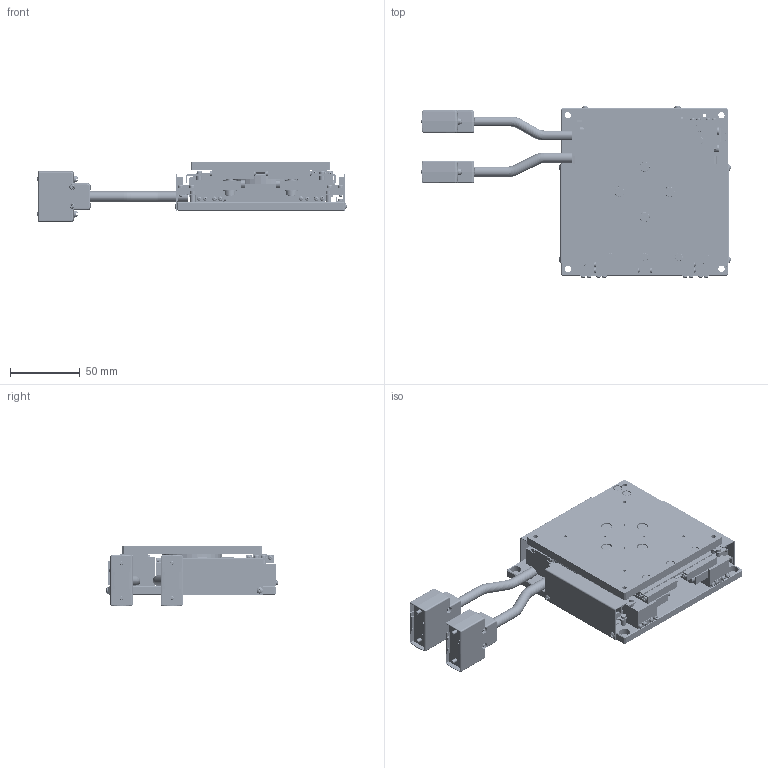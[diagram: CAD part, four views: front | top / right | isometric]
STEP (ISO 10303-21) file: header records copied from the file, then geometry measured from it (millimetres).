
FILE_DESCRIPTION (( 'STEP AP214' ), '1' );
FILE_NAME ('NAF3C-10-01P_3D図.STEP', '2021-07-28T06:30:46', ( 'hst163l' ), ( 'Microsoft' ), 'SwSTEP 2.0', 'SolidWorks 2016', '' );
FILE_SCHEMA (( 'AUTOMOTIVE_DESIGN' ));
Length unit declared in the file: millimetre
Products named in the file (3): K3D-DE-C8-J9-F1-1R-V1_JAE Proprietary; ボディ; NAF3C-10-01P_3D図
Assembly tree (3 placements, depth 2):
  NAF3C-10-01P_3D図
    ボディ
    K3D-DE-C8-J9-F1-1R-V1_JAE Proprietary  x2
Bounding box: 221.63 x 123.2 x 43.4 mm (x, y, z)
Volume: 342393 mm3; surface area: 161019.1 mm2
Topology: 32 solids, 34 shells, 5680 faces, 14065 edges, 8688 vertices
Faces by surface type: plane 3047, cylinder 1279, cone 756, torus 288, bspline 210, sphere 100
Entity records: 161880 total; most frequent: CARTESIAN_POINT 35199, DIRECTION 27408, ORIENTED_EDGE 25982, EDGE_CURVE 12991, AXIS2_PLACEMENT_3D 10534, VERTEX_POINT 8095, LINE 6340, VECTOR 6340
